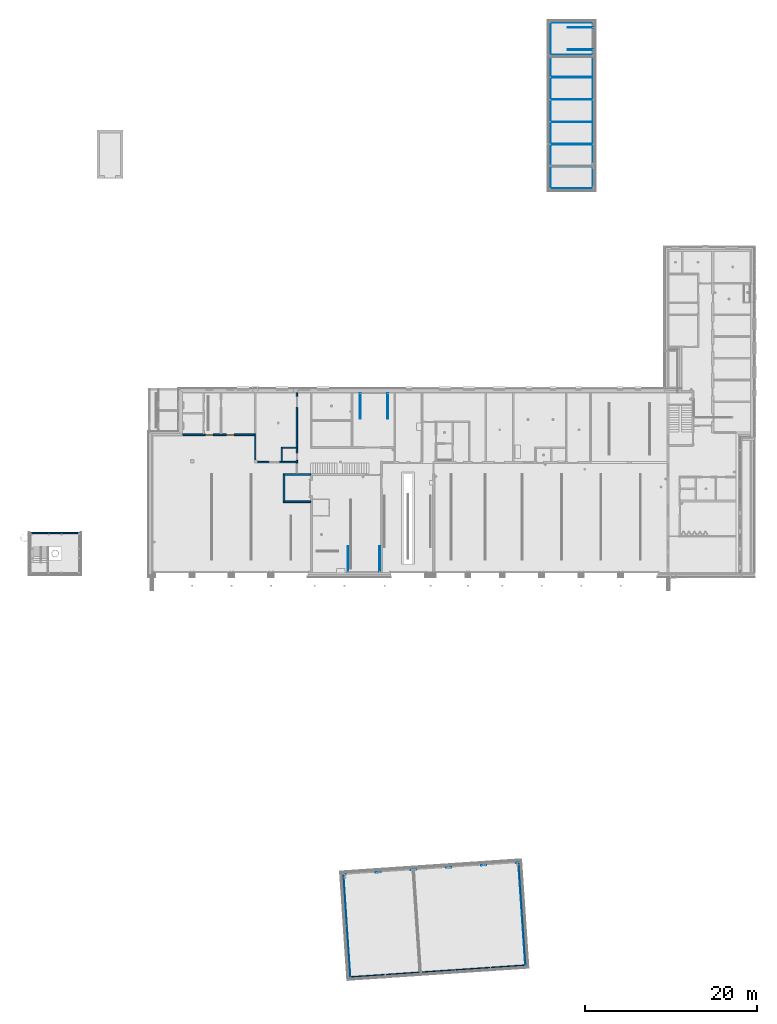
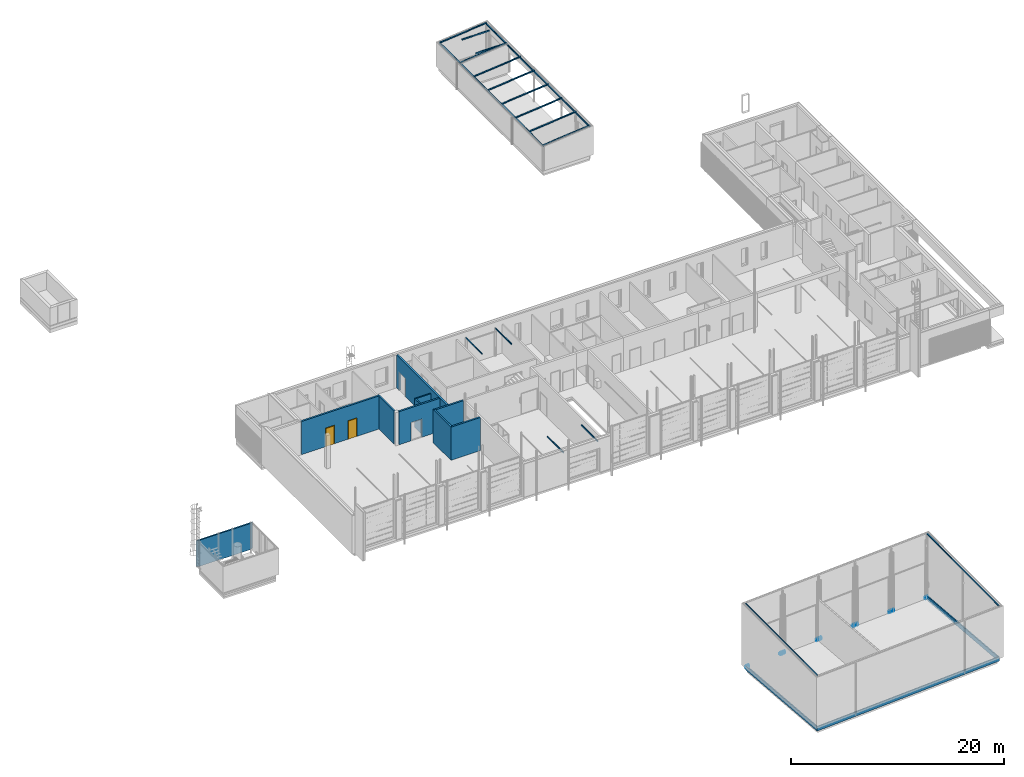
# One storey, part 8 of 112: 18 beams, 14 walls, 2 doors, 11 openings.
"""IFC2X3 building model written with IfcOpenShell, lengths in millimetres."""

from ifc_helpers import new_model, entity, si_unit, converted_unit, derived_unit, money_unit, direction, frame, frame_2d, origin_with_axes, origin_2d_with_axis, place, context, subcontext, project, spatial, polyline, rectangle, outline, extrude, clip, halfspace, faceted_brep, source, transform, mapped, material, layer, layer_set, layer_usage, type_object, element, fill, save


model = new_model("IFC2X3")

# Units and contexts
model_context = context("Model", 3, precision=0.01, world=origin_with_axes(), true_north=direction((0.0, 1.0)))
body_context = subcontext(model_context, "Body", "Model", "MODEL_VIEW")
ifc_project = project(units=[si_unit("LENGTHUNIT", "METRE", prefix="MILLI"), si_unit("AREAUNIT", "SQUARE_METRE"), si_unit("VOLUMEUNIT", "CUBIC_METRE"), converted_unit("PLANEANGLEUNIT", "DEGREE", entity("IfcPlaneAngleMeasure", 0.0174532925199), si_unit("PLANEANGLEUNIT", "RADIAN"), dimensions=[0, 0, 0, 0, 0, 0, 0]), si_unit("SOLIDANGLEUNIT", "STERADIAN"), money_unit("EUR"), converted_unit("TIMEUNIT", "Year", entity("IfcTimeMeasure", 31556926.0), si_unit("TIMEUNIT", "SECOND"), dimensions=[0, 0, 1, 0, 0, 0, 0]), si_unit("MASSUNIT", "GRAM", prefix="KILO"), si_unit("THERMODYNAMICTEMPERATUREUNIT", "DEGREE_CELSIUS"), si_unit("LUMINOUSINTENSITYUNIT", "LUMEN"), si_unit("ENERGYUNIT", "JOULE", prefix="MEGA"), derived_unit("THERMALCONDUCTANCEUNIT", [(si_unit("POWERUNIT", "WATT"), 1), (si_unit("LENGTHUNIT", "METRE"), -1), (si_unit("THERMODYNAMICTEMPERATUREUNIT", "KELVIN"), -1)]), derived_unit("SPECIFICHEATCAPACITYUNIT", [(si_unit("ENERGYUNIT", "JOULE"), 1), (si_unit("MASSUNIT", "GRAM", prefix="KILO"), -1), (si_unit("THERMODYNAMICTEMPERATUREUNIT", "KELVIN"), -1)]), derived_unit("MASSDENSITYUNIT", [(si_unit("MASSUNIT", "GRAM", prefix="KILO"), 1), (si_unit("VOLUMEUNIT", "CUBIC_METRE"), -1)])], contexts=[model_context])

# Site, building, storey
site_placement = place(None, origin_with_axes())
site = spatial("IfcSite", under=ifc_project, at=site_placement, Name="Politse- ja Piirivalveameti ning Päästeameti ühishoone", CompositionType="ELEMENT")
building_placement = place(site_placement, origin_with_axes())
building = spatial("IfcBuilding", under=site, at=building_placement, Name="Politse- ja Piirivalveameti ning Päästeameti ühishoone", CompositionType="ELEMENT")
storey_placement = place(building_placement, origin_with_axes())
storey = spatial("IfcBuildingStorey", under=building, at=storey_placement, Name="Esimene korrus", CompositionType="ELEMENT", Elevation=0.0)

# Beams
ifc_material_1 = material(Name="KON-00_GENEERILINE - KONSTRUKTSIOON")
beam_type_1 = type_object("IfcBeamType", Name="KON-00_GENEERILINE - KONSTRUKTSIOON 90 x 90", PredefinedType="BEAM")
for number, where, z_axis, x_axis in (
    (1, (23025.375444, -47156.3941584, 6104.54438722), (0.0, 0.0, 1.0), (0.997742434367, 0.0671567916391, 0.0)),
    (2, (43479.0953485, -45779.6799298, 6104.54438722), (0.0, 0.0, 1.0), (0.997742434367, 0.0671567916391, 0.0)),
):
    element("IfcBeam", number, at=place(storey_placement, frame(where, z_axis=z_axis, x_axis=x_axis)), inside=storey, type_object=beam_type_1, material=ifc_material_1, Name="TALA", ObjectType="BEAM", context=body_context, shape_type="Clipping", body=[
        clip(clip(extrude(rectangle(XDim=90.0, YDim=90.0, at=frame_2d((45.0, 0.0), x_axis=(1.0, 0.0))), frame((0.0, -12.6413403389, -1.26177350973), z_axis=(0.0, 0.995055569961, 0.0993197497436), x_axis=(0.0, -0.0993197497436, 0.995055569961)), (0.0, 0.0, 1.0), 12180.5083521), halfspace(frame((0.0, 0.0, 0.0), z_axis=(0.0, 1.0, 0.0), x_axis=(0.0, 0.0, 1.0)), True)), halfspace(frame((0.0, 12095.0, 0.0), z_axis=(0.0, -1.0, 0.0), x_axis=(0.0, 0.0, -1.0)), True)),
    ])
for number, where, z_axis, x_axis in (
    (3, (46291.8237405, 57749.8510263, 3014.01590613), (0.0, 0.0, 1.0), (0.0, -1.0, 0.0)),
    (4, (46291.8237405, 60349.8510263, 3014.01590613), (0.0, 0.0, 1.0), (0.0, -1.0, 0.0)),
    (5, (46291.8237405, 64149.8510263, 3014.01590613), (0.0, 0.0, 1.0), (0.0, -1.0, 0.0)),
    (6, (46291.8237405, 55149.8510263, 3014.01590613), (0.0, 0.0, 1.0), (0.0, -1.0, 0.0)),
    (7, (46291.8237405, 52549.8510263, 3014.01590613), (0.0, 0.0, 1.0), (0.0, -1.0, 0.0)),
    (8, (46291.8237405, 49949.8510263, 3014.01590613), (0.0, 0.0, 1.0), (0.0, -1.0, 0.0)),
    (9, (46291.8237405, 47349.8510263, 3014.01590613), (0.0, 0.0, 1.0), (0.0, -1.0, 0.0)),
    (10, (46291.8237405, 44749.8510263, 3014.01590613), (0.0, 0.0, 1.0), (0.0, -1.0, 0.0)),
):
    element("IfcBeam", number, at=place(storey_placement, frame(where, z_axis=z_axis, x_axis=x_axis)), inside=storey, type_object=beam_type_1, material=ifc_material_1, Name="TALA", ObjectType="BEAM", context=body_context, shape_type="Clipping", body=[
        clip(clip(extrude(rectangle(XDim=90.0, YDim=90.0, at=frame_2d((45.0, 0.0), x_axis=(1.0, 0.0))), frame((0.0, -12.6413403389, -1.26177350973), z_axis=(0.0, 0.995055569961, 0.0993197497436), x_axis=(0.0, -0.0993197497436, 0.995055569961)), (0.0, 0.0, 1.0), 5150.75020471), halfspace(frame((0.0, 0.0, 0.0), z_axis=(0.0, 1.0, 0.0), x_axis=(0.0, 0.0, 1.0)), True)), halfspace(frame((0.0, 5100.0, 0.0), z_axis=(0.0, -1.0, 0.0), x_axis=(0.0, 0.0, -1.0)), True)),
    ])
for number, where, z_axis, x_axis in (
    (11, (51341.8237405, 44704.8510263, 3432.56451409), (0.0, 0.0, 1.0), (1.0, 0.0, 0.0)),
    (12, (46341.8237405, 44704.8510263, 2933.49816673), (0.0, 0.0, 1.0), (1.0, 0.0, 0.0)),
):
    element("IfcBeam", number, at=place(storey_placement, frame(where, z_axis=z_axis, x_axis=x_axis)), inside=storey, type_object=beam_type_1, material=ifc_material_1, Name="TALA", ObjectType="BEAM", context=body_context, shape_type="SweptSolid", body=[
        extrude(rectangle(XDim=90.0, YDim=90.0, at=frame_2d((45.0, 0.0), x_axis=(1.0, 0.0))), frame((0.0, 0.0, 0.0), z_axis=(0.0, 1.0, 0.0), x_axis=(0.0, 0.0, 1.0)), (0.0, 0.0, 1.0), 19490.1644299),
    ])
beam_type_2 = type_object("IfcBeamType", Name="KON-00_GENEERILINE - KONSTRUKTSIOON 80 x 100", PredefinedType="BEAM")
for number, where, z_axis, x_axis in (
    (13, (22759.721466, 96.5881643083, 3115.0), (0.0, 0.0, 1.0), (1.0, 0.0, 0.0)),
    (14, (26459.9276962, 96.5881643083, 3115.0), (0.0, 0.0, 1.0), (1.0, 0.0, 0.0)),
    (15, (24194.6772624, 20927.0438187, 3115.0), (0.0, 0.0, 1.0), (-1.0, 0.0, 0.0)),
    (16, (27394.6772624, 20927.0438187, 3115.0), (0.0, 0.0, 1.0), (-1.0, 0.0, 0.0)),
    (17, (51375.9750079, 60956.213859, 3000.0), (0.0, 0.0, 1.0), (0.0, 1.0, 0.0)),
    (18, (51375.9750079, 63559.6880475, 3000.0), (0.0, 0.0, 1.0), (0.0, 1.0, 0.0)),
):
    element("IfcBeam", number, at=place(storey_placement, frame(where, z_axis=z_axis, x_axis=x_axis)), inside=storey, type_object=beam_type_2, material=ifc_material_1, Name="tõstukse siin", ObjectType="BEAM", context=body_context, shape_type="SweptSolid", body=[
        extrude(rectangle(XDim=100.0, YDim=80.0, at=frame_2d((50.0, 0.0), x_axis=(1.0, 0.0))), frame((0.0, 0.0, 0.0), z_axis=(0.0, 1.0, 0.0), x_axis=(0.0, 0.0, 1.0)), (0.0, 0.0, 1.0), 3000.0),
    ])

# Wall, openings, doors
ifc_material_2 = material(Name="KON-05_Betoon Plokk - Konstuktsioon")
ifc_layer_1 = layer(ifc_material_2, 190.0, ventilated="UNKNOWN")
ifc_layer_set_1 = layer_set([ifc_layer_1], Name="SS-03_Sisesein 190")
ifc_layer_usage_1 = layer_usage(ifc_layer_set_1, "AXIS2", "NEGATIVE", 190.0)
wall_type_1 = type_object("IfcWallType", Name="SS-03_Sisesein 190 190", PredefinedType="NOTDEFINED")
wall_1_placement = place(storey_placement, frame((3500.00534722, 16000.0244444, 0.0), z_axis=(0.0, 0.0, 1.0), x_axis=(1.0, 0.0, 0.0)))
wall_1 = element("IfcWallStandardCase", 19, at=wall_1_placement, inside=storey, type_object=wall_type_1, material=ifc_layer_usage_1, Name="SS-03", context=body_context, shape_type="SweptSolid", body=[
    extrude(outline(polyline([(0.0, 0.0), (8400.19283361, 0.0), (8400.19283361, 190.0), (0.0, 190.0), (0.0, 0.0)])), origin_with_axes(), (0.0, 0.0, 1.0), 3800.0),
])
opening_1_placement = place(wall_1_placement, frame((3090.00366667, 0.0, 0.0), z_axis=(0.0, 0.0, 1.0), x_axis=(1.0, 0.0, 0.0)))
opening_1 = element("IfcOpeningElement", 20, at=opening_1_placement, cuts=wall_1, Name="TU-01-10", context=body_context, shape_type="SweptSolid", body=[
    extrude(rectangle(XDim=900.0, YDim=2100.0, at=origin_2d_with_axis()), frame((0.0, 190.0, 1050.0), z_axis=(0.0, 1.0, 0.0), x_axis=(1.0, 0.0, 0.0)), (0.0, 0.0, -1.0), 570.0),
    extrude(rectangle(XDim=974.0, YDim=2137.0, at=origin_2d_with_axis()), frame((0.0, 190.0, 1068.5), z_axis=(0.0, 1.0, 0.0), x_axis=(1.0, 0.0, 0.0)), (0.0, 0.0, 1.0), 190.0),
    extrude(rectangle(XDim=974.0, YDim=2137.0, at=origin_2d_with_axis()), frame((0.0, 0.0, 1068.5), z_axis=(0.0, -1.0, 0.0), x_axis=(1.0, 0.0, 0.0)), (0.0, 0.0, 1.0), 190.0),
])
opening_2_placement = place(wall_1_placement, frame((5550.45566228, 0.0, 0.0), z_axis=(0.0, 0.0, 1.0), x_axis=(1.0, 0.0, 0.0)))
opening_2 = element("IfcOpeningElement", 21, at=opening_2_placement, cuts=wall_1, Name="TU-01-10", context=body_context, shape_type="SweptSolid", body=[
    extrude(rectangle(XDim=900.0, YDim=2100.0, at=origin_2d_with_axis()), frame((0.0, 190.0, 1050.0), z_axis=(0.0, 1.0, 0.0), x_axis=(1.0, 0.0, 0.0)), (0.0, 0.0, -1.0), 570.0),
    extrude(rectangle(XDim=974.0, YDim=2137.0, at=origin_2d_with_axis()), frame((0.0, 190.0, 1068.5), z_axis=(0.0, 1.0, 0.0), x_axis=(1.0, 0.0, 0.0)), (0.0, 0.0, 1.0), 190.0),
    extrude(rectangle(XDim=974.0, YDim=2137.0, at=origin_2d_with_axis()), frame((0.0, 0.0, 1068.5), z_axis=(0.0, -1.0, 0.0), x_axis=(1.0, 0.0, 0.0)), (0.0, 0.0, 1.0), 190.0),
])
door_style = type_object("IfcDoorStyle", Name="Door 23", ConstructionType="NOTDEFINED", OperationType="SINGLE_SWING_LEFT", ParameterTakesPrecedence=False, Sizeable=False)
shared_shape = source(origin_with_axes(), body_context, "Body", "Brep", [
    faceted_brep([(-422.0, -40.0, 0.0), (-410.0, -40.0, 0.0), (-410.0, -40.0, 12.0), (-422.0, -40.0, 12.0), (422.0, -40.0, 0.0), (410.0, -40.0, 0.0), (410.0, -115.0, 0.0), (-410.0, -115.0, 0.0), (-410.0, -115.0, 12.0), (410.0, -115.0, 12.0), (410.0, -40.0, 12.0), (422.0, -40.0, 12.0)], [[[0, 1, 2, 3]], [[0, 4, 5, 6, 7, 1]], [[1, 7, 8, 2]], [[3, 2, 8, 9, 10, 11]], [[4, 0, 3, 11]], [[5, 4, 11, 10]], [[6, 5, 10, 9]], [[7, 6, 9, 8]]]),
    faceted_brep([(450.0, -115.0, 0.0), (450.0, -190.0, 0.0), (425.0, -190.0, 0.0), (425.0, -115.0, 0.0), (450.0, -115.0, 2100.0), (450.0, -190.0, 2100.0), (425.0, -190.0, 2075.0), (425.0, -115.0, 2075.0)], [[[0, 1, 2, 3]], [[4, 5, 1, 0]], [[1, 5, 6, 2]], [[3, 2, 6, 7]], [[0, 3, 7, 4]], [[7, 6, 5, 4]]]),
    faceted_brep([(-450.0, -115.0, 2100.0), (-450.0, -190.0, 2100.0), (-425.0, -190.0, 2075.0), (-425.0, -115.0, 2075.0), (-450.0, -115.0, 0.0), (-450.0, -190.0, 0.0), (-425.0, -190.0, 0.0), (-425.0, -115.0, 0.0)], [[[0, 1, 2, 3]], [[4, 5, 1, 0]], [[1, 5, 6, 2]], [[3, 2, 6, 7]], [[0, 3, 7, 4]], [[7, 6, 5, 4]]]),
    faceted_brep([(425.0, -115.0, 2075.0), (425.0, -190.0, 2075.0), (-425.0, -190.0, 2075.0), (-425.0, -115.0, 2075.0), (450.0, -115.0, 2100.0), (450.0, -190.0, 2100.0), (-450.0, -190.0, 2100.0), (-450.0, -115.0, 2100.0)], [[[0, 1, 2, 3]], [[4, 5, 1, 0]], [[1, 5, 6, 2]], [[3, 2, 6, 7]], [[0, 3, 7, 4]], [[7, 6, 5, 4]]]),
    faceted_brep([(487.0, -209.0, 0.0), (437.0, -209.0, 0.0), (437.0, -190.0, 0.0), (487.0, -190.0, 0.0), (487.0, -209.0, 2137.0), (437.0, -209.0, 2087.0), (437.0, -190.0, 2087.0), (487.0, -190.0, 2137.0)], [[[0, 1, 2, 3]], [[0, 4, 5, 1]], [[1, 5, 6, 2]], [[3, 2, 6, 7]], [[4, 0, 3, 7]], [[5, 4, 7, 6]]]),
    faceted_brep([(-487.0, -209.0, 2137.0), (-437.0, -209.0, 2087.0), (-437.0, -190.0, 2087.0), (-487.0, -190.0, 2137.0), (-487.0, -209.0, 0.0), (-437.0, -209.0, 0.0), (-437.0, -190.0, 0.0), (-487.0, -190.0, 0.0)], [[[0, 1, 2, 3]], [[0, 4, 5, 1]], [[1, 5, 6, 2]], [[3, 2, 6, 7]], [[4, 0, 3, 7]], [[5, 4, 7, 6]]]),
    faceted_brep([(487.0, -209.0, 2137.0), (437.0, -209.0, 2087.0), (437.0, -190.0, 2087.0), (487.0, -190.0, 2137.0), (-487.0, -209.0, 2137.0), (-437.0, -209.0, 2087.0), (-437.0, -190.0, 2087.0), (-487.0, -190.0, 2137.0)], [[[0, 1, 2, 3]], [[0, 4, 5, 1]], [[1, 5, 6, 2]], [[3, 2, 6, 7]], [[4, 0, 3, 7]], [[5, 4, 7, 6]]]),
    faceted_brep([(487.0, 19.0, 0.0), (487.0, 0.0, 0.0), (437.0, 0.0, 0.0), (437.0, 19.0, 0.0), (487.0, 19.0, 2137.0), (487.0, 0.0, 2137.0), (437.0, 0.0, 2087.0), (437.0, 19.0, 2087.0)], [[[0, 1, 2, 3]], [[4, 5, 1, 0]], [[1, 5, 6, 2]], [[3, 2, 6, 7]], [[0, 3, 7, 4]], [[7, 6, 5, 4]]]),
    faceted_brep([(-487.0, 19.0, 2137.0), (-487.0, 0.0, 2137.0), (-437.0, 0.0, 2087.0), (-437.0, 19.0, 2087.0), (-487.0, 19.0, 0.0), (-487.0, 0.0, 0.0), (-437.0, 0.0, 0.0), (-437.0, 19.0, 0.0)], [[[0, 1, 2, 3]], [[4, 5, 1, 0]], [[1, 5, 6, 2]], [[3, 2, 6, 7]], [[0, 3, 7, 4]], [[7, 6, 5, 4]]]),
    faceted_brep([(487.0, 19.0, 2137.0), (487.0, 0.0, 2137.0), (437.0, 0.0, 2087.0), (437.0, 19.0, 2087.0), (-487.0, 19.0, 2137.0), (-487.0, 0.0, 2137.0), (-437.0, 0.0, 2087.0), (-437.0, 19.0, 2087.0)], [[[0, 1, 2, 3]], [[4, 5, 1, 0]], [[1, 5, 6, 2]], [[3, 2, 6, 7]], [[0, 3, 7, 4]], [[7, 6, 5, 4]]]),
    faceted_brep([(410.0, -40.0, 0.0), (410.0, -115.0, 0.0), (410.0, -115.0, 2060.0), (410.0, -40.0, 2060.0), (422.0, -40.0, 0.0), (422.0, 0.0, 0.0), (450.0, 0.0, 0.0), (450.0, -115.0, 0.0), (450.0, -115.0, 2060.0), (422.0, -40.0, 2060.0), (450.0, 0.0, 2060.0), (422.0, 0.0, 2060.0)], [[[0, 1, 2, 3]], [[4, 5, 6, 7, 1, 0]], [[1, 7, 8, 2]], [[9, 3, 2, 8, 10, 11]], [[9, 4, 0, 3]], [[11, 5, 4, 9]], [[11, 10, 6, 5]], [[6, 10, 8, 7]]]),
    faceted_brep([(-422.0, -40.0, 2060.0), (-422.0, 0.0, 2060.0), (-450.0, 0.0, 2060.0), (-450.0, -115.0, 2060.0), (-410.0, -115.0, 2060.0), (-410.0, -40.0, 2060.0), (-422.0, -40.0, 0.0), (-422.0, 0.0, 0.0), (-450.0, 0.0, 0.0), (-450.0, -115.0, 0.0), (-410.0, -115.0, 0.0), (-410.0, -40.0, 0.0)], [[[0, 1, 2, 3, 4, 5]], [[0, 6, 7, 1]], [[7, 8, 2, 1]], [[2, 8, 9, 3]], [[3, 9, 10, 4]], [[5, 4, 10, 11]], [[5, 11, 6, 0]], [[6, 11, 10, 9, 8, 7]]]),
    faceted_brep([(422.0, 0.0, 2072.0), (-422.0, 0.0, 2072.0), (-422.0, 0.0, 2060.0), (-450.0, 0.0, 2060.0), (-450.0, 0.0, 2100.0), (450.0, 0.0, 2100.0), (450.0, 0.0, 2060.0), (422.0, 0.0, 2060.0), (422.0, -40.0, 2072.0), (-422.0, -40.0, 2072.0), (-422.0, -40.0, 2060.0), (-410.0, -40.0, 2060.0), (-410.0, -115.0, 2060.0), (-450.0, -115.0, 2060.0), (-450.0, -115.0, 2100.0), (450.0, -115.0, 2100.0), (450.0, -115.0, 2060.0), (422.0, -40.0, 2060.0), (410.0, -115.0, 2060.0), (410.0, -40.0, 2060.0)], [[[0, 1, 2, 3, 4, 5, 6, 7]], [[0, 8, 9, 1]], [[1, 9, 10, 2]], [[10, 11, 12, 13, 3, 2]], [[4, 3, 13, 14]], [[5, 4, 14, 15]], [[6, 5, 15, 16]], [[17, 7, 6, 16, 18, 19]], [[7, 17, 8, 0]], [[10, 9, 8, 17, 19, 11]], [[19, 18, 12, 11]], [[12, 18, 16, 15, 14, 13]]]),
    faceted_brep([(-422.0, 0.0, 0.0), (422.0, 0.0, 0.0), (422.0, -40.0, 0.0), (-422.0, -40.0, 0.0), (-422.0, 0.0, 2072.0), (422.0, 0.0, 2072.0), (422.0, -40.0, 2072.0), (-422.0, -40.0, 2072.0)], [[[0, 1, 2, 3]], [[0, 4, 5, 1]], [[1, 5, 6, 2]], [[3, 2, 6, 7]], [[4, 0, 3, 7]], [[5, 4, 7, 6]]]),
])
door_1_placement = place(opening_1_placement, frame((450.0, 0.0, 0.0), z_axis=(0.0, 0.0, 1.0), x_axis=(-1.0, 0.0, 0.0)))
door_1 = element("IfcDoor", 22, at=door_1_placement, inside=storey, type_object=door_style, Name="TU-01-10", ObjectType="DOOR", OverallHeight=2100.0, OverallWidth=900.0, context=body_context, shape_type="MappedRepresentation", body=[
    mapped(shared_shape, transform((450.0, 0.0, 0.0))),
])
fill(opening_1, door_1)
door_2_placement = place(opening_2_placement, frame((450.0, 0.0, 0.0), z_axis=(0.0, 0.0, 1.0), x_axis=(-1.0, 0.0, 0.0)))
door_2 = element("IfcDoor", 23, at=door_2_placement, inside=storey, type_object=door_style, Name="TU-01-10", ObjectType="DOOR", OverallHeight=2100.0, OverallWidth=900.0, context=body_context, shape_type="MappedRepresentation", body=[
    mapped(shared_shape, transform((450.0, 0.0, 0.0))),
])
fill(opening_2, door_2)

# Wall, opening
ifc_layer_usage_2 = layer_usage(ifc_layer_set_1, "AXIS2", "POSITIVE", -190.0)
wall_2_placement = place(storey_placement, frame((12250.1960484, 13000.0198611, 0.0), z_axis=(0.0, 0.0, 1.0), x_axis=(1.0, 0.0, 0.0)))
wall_2 = element("IfcWallStandardCase", 24, at=wall_2_placement, inside=storey, type_object=wall_type_1, material=ifc_layer_usage_2, Name="SS-03", context=body_context, shape_type="SweptSolid", body=[
    extrude(outline(polyline([(0.0, -190.0), (4459.88977117, -190.0), (4454.88977117, 0.0), (-5.0, 0.0), (0.0, -190.0)])), origin_with_axes(), (0.0, 0.0, 1.0), 3800.0),
])
opening_3_placement = place(wall_2_placement, frame((1919.40604494, 0.0, 0.0), z_axis=(0.0, 0.0, 1.0), x_axis=(1.0, 0.0, 0.0)))
element("IfcOpeningElement", 25, at=opening_3_placement, cuts=wall_2, Name="TU-01-2", context=body_context, shape_type="SweptSolid", body=[
    extrude(rectangle(XDim=1200.0, YDim=2100.0, at=origin_2d_with_axis()), frame((0.0, -190.0, 1050.0), z_axis=(0.0, -1.0, 0.0), x_axis=(-1.0, 0.0, 0.0)), (0.0, 0.0, -1.0), 570.0),
    extrude(rectangle(XDim=1274.0, YDim=2137.0, at=origin_2d_with_axis()), frame((0.0, -190.0, 1068.5), z_axis=(0.0, -1.0, 0.0), x_axis=(-1.0, 0.0, 0.0)), (0.0, 0.0, 1.0), 190.0),
    extrude(rectangle(XDim=1274.0, YDim=2137.0, at=origin_2d_with_axis()), frame((0.0, 0.0, 1068.5), z_axis=(0.0, 1.0, 0.0), x_axis=(-1.0, 0.0, 0.0)), (0.0, 0.0, 1.0), 190.0),
])

# Wall, openings
ifc_layer_usage_3 = layer_usage(ifc_layer_set_1, "AXIS2", "POSITIVE", -190.0)
wall_3_placement = place(storey_placement, frame((16900.0858195, 20999.9520832, 0.0), z_axis=(0.0, 0.0, 1.0), x_axis=(0.0, -1.0, 0.0)))
wall_3 = element("IfcWallStandardCase", 26, at=wall_3_placement, inside=storey, type_object=wall_type_1, material=ifc_layer_usage_3, Name="SS-03", context=body_context, shape_type="SweptSolid", body=[
    extrude(outline(polyline([(0.0, -190.0), (9439.9322221, -190.0), (9439.9322221, 0.0), (0.0, 0.0), (0.0, -190.0)])), origin_with_axes(), (0.0, 0.0, 1.0), 3800.0),
])
opening_4_placement = place(wall_3_placement, frame((1079.90754028, 0.0, 0.0), z_axis=(0.0, 0.0, 1.0), x_axis=(1.0, 0.0, 0.0)))
element("IfcOpeningElement", 27, at=opening_4_placement, cuts=wall_3, Name="TU-01-2", context=body_context, shape_type="SweptSolid", body=[
    extrude(rectangle(XDim=1200.0, YDim=2100.0, at=origin_2d_with_axis()), frame((0.0, -190.0, 1050.0), z_axis=(0.0, -1.0, 0.0), x_axis=(1.0, 0.0, 0.0)), (0.0, 0.0, -1.0), 570.0),
    extrude(rectangle(XDim=1274.0, YDim=2137.0, at=origin_2d_with_axis()), frame((0.0, -190.0, 1068.5), z_axis=(0.0, -1.0, 0.0), x_axis=(1.0, 0.0, 0.0)), (0.0, 0.0, 1.0), 190.0),
    extrude(rectangle(XDim=1274.0, YDim=2137.0, at=origin_2d_with_axis()), frame((0.0, 0.0, 1068.5), z_axis=(0.0, 1.0, 0.0), x_axis=(1.0, 0.0, 0.0)), (0.0, 0.0, 1.0), 190.0),
])
opening_5_placement = place(wall_3_placement, frame((7439.98395163, 0.0, 0.0), z_axis=(0.0, 0.0, 1.0), x_axis=(1.0, 0.0, 0.0)))
element("IfcOpeningElement", 28, at=opening_5_placement, cuts=wall_3, Name="SU-01-6", context=body_context, shape_type="SweptSolid", body=[
    extrude(rectangle(XDim=800.0, YDim=2100.0, at=origin_2d_with_axis()), frame((0.0, -190.0, 1050.0), z_axis=(0.0, 1.0, 0.0), x_axis=(1.0, 0.0, 0.0)), (0.0, 0.0, 1.0), 570.0),
    extrude(rectangle(XDim=874.0, YDim=2137.0, at=origin_2d_with_axis()), frame((0.0, -190.0, 1068.5), z_axis=(0.0, 1.0, 0.0), x_axis=(1.0, 0.0, 0.0)), (0.0, 0.0, -1.0), 190.0),
    extrude(rectangle(XDim=874.0, YDim=2137.0, at=origin_2d_with_axis()), frame((0.0, 0.0, 1068.5), z_axis=(0.0, -1.0, 0.0), x_axis=(1.0, 0.0, 0.0)), (0.0, 0.0, -1.0), 190.0),
])
opening_6_placement = place(wall_3_placement, frame((8839.9322221, 0.0, 0.0), z_axis=(0.0, 0.0, 1.0), x_axis=(1.0, 0.0, 0.0)))
element("IfcOpeningElement", 29, at=opening_6_placement, cuts=wall_3, Name="TU-01-1", context=body_context, shape_type="SweptSolid", body=[
    extrude(rectangle(XDim=1200.0, YDim=2100.0, at=origin_2d_with_axis()), frame((0.0, -190.0, 1050.0), z_axis=(0.0, 1.0, 0.0), x_axis=(-1.0, 0.0, 0.0)), (0.0, 0.0, 1.0), 570.0),
    extrude(rectangle(XDim=1274.0, YDim=2137.0, at=origin_2d_with_axis()), frame((0.0, -190.0, 1068.5), z_axis=(0.0, 1.0, 0.0), x_axis=(-1.0, 0.0, 0.0)), (0.0, 0.0, -1.0), 190.0),
    extrude(rectangle(XDim=1274.0, YDim=2137.0, at=origin_2d_with_axis()), frame((0.0, 0.0, 1068.5), z_axis=(0.0, -1.0, 0.0), x_axis=(-1.0, 0.0, 0.0)), (0.0, 0.0, -1.0), 190.0),
])

# Walls
ifc_layer_usage_4 = layer_usage(ifc_layer_set_1, "AXIS2", "POSITIVE", -190.0)
wall_4_placement = place(storey_placement, frame((15210.5476386, 11560.0198611, 0.0), z_axis=(0.0, 0.0, 1.0), x_axis=(1.0, 0.0, 0.0)))
element("IfcWallStandardCase", 30, at=wall_4_placement, inside=storey, type_object=wall_type_1, material=ifc_layer_usage_4, Name="SS-02", context=body_context, shape_type="SweptSolid", body=[
    extrude(outline(polyline([(190.0, -190.0), (3189.54047256, -190.0), (3189.54047256, 0.0), (0.0, 0.0), (190.0, -190.0)])), origin_with_axes(), (0.0, 0.0, 1.0), 3800.0),
])
ifc_layer_usage_5 = layer_usage(ifc_layer_set_1, "AXIS2", "NEGATIVE", 190.0)
wall_5_placement = place(storey_placement, frame((15210.5476386, 8180.01986111, 0.0), z_axis=(0.0, 0.0, 1.0), x_axis=(1.0, 0.0, 0.0)))
element("IfcWallStandardCase", 31, at=wall_5_placement, inside=storey, type_object=wall_type_1, material=ifc_layer_usage_5, Name="SS-02", context=body_context, shape_type="SweptSolid", body=[
    extrude(outline(polyline([(0.0, 0.0), (3189.54047256, 0.0), (3189.54047256, 190.0), (190.0, 190.0), (0.0, 0.0)])), origin_with_axes(), (0.0, 0.0, 1.0), 3800.0),
])
ifc_layer_usage_6 = layer_usage(ifc_layer_set_1, "AXIS2", "NEGATIVE", 190.0)
wall_6_placement = place(storey_placement, frame((15210.5476386, 11560.0198611, 0.0), z_axis=(0.0, 0.0, 1.0), x_axis=(0.0, -1.0, 0.0)))
element("IfcWallStandardCase", 32, at=wall_6_placement, inside=storey, type_object=wall_type_1, material=ifc_layer_usage_6, Name="SS-03", context=body_context, shape_type="SweptSolid", body=[
    extrude(outline(polyline([(0.0, 0.0), (3380.0, 0.0), (3190.0, 190.0), (190.0, 190.0), (0.0, 0.0)])), origin_with_axes(), (0.0, 0.0, 1.0), 3800.0),
])
ifc_layer_2 = layer(ifc_material_2, 140.0, ventilated="UNKNOWN")
ifc_layer_set_2 = layer_set([ifc_layer_2], Name="SS-02_Sisesein 140")
ifc_layer_usage_7 = layer_usage(ifc_layer_set_2, "AXIS2", "NEGATIVE", 0.0)
wall_type_2 = type_object("IfcWallType", Name="SS-02_Sisesein 140 140", PredefinedType="NOTDEFINED")
wall_7_placement = place(storey_placement, frame((15110.0943411, 14500.0421528, 0.0), z_axis=(0.0, 0.0, 1.0), x_axis=(0.0, -1.0, 0.0)))
element("IfcWallStandardCase", 33, at=wall_7_placement, inside=storey, type_object=wall_type_2, material=ifc_layer_usage_7, Name="SS-02", context=body_context, shape_type="SweptSolid", body=[
    extrude(outline(polyline([(-140.0, -140.0), (1500.0222917, -140.0), (1500.0222917, 0.0), (0.0, 0.0), (-140.0, -140.0)])), origin_with_axes(), (0.0, 0.0, 1.0), 3280.0),
])
ifc_layer_usage_8 = layer_usage(ifc_layer_set_2, "AXIS2", "NEGATIVE", 0.0)
wall_8_placement = place(storey_placement, frame((16900.0858195, 14500.0421528, 0.0), z_axis=(0.0, 0.0, 1.0), x_axis=(-1.0, 0.0, 0.0)))
element("IfcWallStandardCase", 34, at=wall_8_placement, inside=storey, type_object=wall_type_2, material=ifc_layer_usage_8, Name="SS-02", context=body_context, shape_type="SweptSolid", body=[
    extrude(outline(polyline([(190.0, -140.0), (1929.99147847, -140.0), (1789.99147847, 0.0), (190.0, 0.0), (190.0, -140.0)])), origin_with_axes(), (0.0, 0.0, 1.0), 3280.0),
])
ifc_layer_usage_9 = layer_usage(ifc_layer_set_2, "AXIS2", "NEGATIVE", 140.0)
wall_9_placement = place(storey_placement, frame((11900.1981808, 16220.0244444, 0.0), z_axis=(0.0, 0.0, 1.0), x_axis=(0.0, -1.0, 0.0)))
element("IfcWallStandardCase", 35, at=wall_9_placement, inside=storey, type_object=wall_type_2, material=ifc_layer_usage_9, Name="SS-02", context=body_context, shape_type="SweptSolid", body=[
    extrude(outline(polyline([(0.0, 0.0), (3060.01055854, 0.0), (3060.01055854, 140.0), (0.0, 140.0), (0.0, 0.0)])), origin_with_axes(), (0.0, 0.0, 1.0), 3800.0),
])
ifc_material_3 = material(Name="Betoon")
ifc_layer_3 = layer(ifc_material_3, 150.0, ventilated="UNKNOWN")
ifc_layer_set_3 = layer_set([ifc_layer_3], Name="VS-21_Välissein jarjutustorn 150mm")
ifc_layer_usage_10 = layer_usage(ifc_layer_set_3, "AXIS2", "NEGATIVE", 150.0)
wall_type_3 = type_object("IfcWallType", Name="VS-21_Välissein jarjutustorn 150mm 150", PredefinedType="NOTDEFINED")
wall_10_placement = place(storey_placement, frame((-14182.0, 4575.4616888, 299.570732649), z_axis=(0.0, 0.0, 1.0), x_axis=(1.0, 0.0, 0.0)))
element("IfcWallStandardCase", 36, at=wall_10_placement, inside=storey, type_object=wall_type_3, material=ifc_layer_usage_10, Name="VS-22", context=body_context, shape_type="SweptSolid", body=[
    extrude(outline(polyline([(0.0, 0.0), (5650.0, 0.0), (5875.0, 150.0), (-225.0, 150.0), (0.0, 0.0)])), origin_with_axes(), (0.0, 0.0, 1.0), 3000.42930665),
])
ifc_material_4 = material(Name="KON-04_Betoon - Konstuktsioon")
ifc_layer_4 = layer(ifc_material_4, 120.0, ventilated="UNKNOWN")
ifc_layer_set_4 = layer_set([ifc_layer_4], Name="VS-32_garaazi sokkel")
ifc_layer_usage_11 = layer_usage(ifc_layer_set_4, "AXIS2", "POSITIVE", -60.0)
wall_type_4 = type_object("IfcWallType", Name="VS-32_garaazi sokkel 120", PredefinedType="NOTDEFINED")
wall_11_placement = place(storey_placement, frame((22216.4718887, -35138.5865365, -195.0), z_axis=(0.0, 0.0, 1.0), x_axis=(0.0671567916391, -0.997742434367, 0.0)))
element("IfcWallStandardCase", 37, at=wall_11_placement, inside=storey, type_object=wall_type_4, material=ifc_layer_usage_11, Name="VS-42", context=body_context, shape_type="SweptSolid", body=[
    extrude(outline(polyline([(-60.0, -60.0), (12060.0, -60.0), (11940.0, 60.0), (60.0, 60.0), (-60.0, -60.0)])), origin_with_axes(), (0.0, 0.0, 1.0), 495.0),
])
ifc_layer_usage_12 = layer_usage(ifc_layer_set_4, "AXIS2", "POSITIVE", -60.0)
wall_12_placement = place(storey_placement, frame((43476.0732693, -45734.7815219, -195.0), z_axis=(0.0, 0.0, 1.0), x_axis=(-0.997742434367, -0.0671567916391, 0.0)))
element("IfcWallStandardCase", 38, at=wall_12_placement, inside=storey, type_object=wall_type_4, material=ifc_layer_usage_12, Name="VS-32", context=body_context, shape_type="SweptSolid", body=[
    extrude(outline(polyline([(59.9999763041, -60.0), (20439.9999763, -60.0), (20559.9999763, 60.0), (-60.0000236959, 60.0), (59.9999763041, -60.0)])), origin_with_axes(), (0.0, 0.0, 1.0), 495.0),
])
ifc_layer_usage_13 = layer_usage(ifc_layer_set_4, "AXIS2", "POSITIVE", -60.0)
wall_13_placement = place(storey_placement, frame((42670.1917932, -33761.8723079, -195.0), z_axis=(0.0, 0.0, 1.0), x_axis=(0.0671567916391, -0.997742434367, 0.0)))
element("IfcWallStandardCase", 39, at=wall_13_placement, inside=storey, type_object=wall_type_4, material=ifc_layer_usage_13, Name="VS-42", context=body_context, shape_type="SweptSolid", body=[
    extrude(outline(polyline([(60.0, -60.0), (11940.0, -60.0), (12060.0, 60.0), (-60.0, 60.0), (60.0, -60.0)])), origin_with_axes(), (0.0, 0.0, 1.0), 495.0),
])

# Wall, openings
ifc_layer_usage_14 = layer_usage(ifc_layer_set_4, "AXIS2", "POSITIVE", -60.0)
wall_14_placement = place(storey_placement, frame((22216.4718887, -35138.5865365, 0.0), z_axis=(0.0, 0.0, 1.0), x_axis=(0.997742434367, 0.0671567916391, 0.0)))
wall_14 = element("IfcWallStandardCase", 40, at=wall_14_placement, inside=storey, type_object=wall_type_4, material=ifc_layer_usage_14, Name="VS-42", context=body_context, shape_type="SweptSolid", body=[
    extrude(outline(polyline([(60.0, -60.0), (20440.0, -60.0), (20560.0, 60.0), (-60.0, 60.0), (60.0, -60.0)])), origin_with_axes(), (0.0, 0.0, 1.0), 300.0),
])
opening_7_placement = place(wall_14_placement, frame((6150.00001185, 0.0, 0.0), z_axis=(0.0, 0.0, 1.0), x_axis=(1.0, 0.0, 0.0)))
element("IfcOpeningElement", 41, at=opening_7_placement, cuts=wall_14, Name="TÜHI AVA", context=body_context, shape_type="SweptSolid", body=[
    extrude(rectangle(XDim=3500.0, YDim=2100.0, at=origin_2d_with_axis()), frame((0.0, -120.0, 1050.0), z_axis=(0.0, 1.0, 0.0), x_axis=(-1.0, 0.0, 0.0)), (0.0, 0.0, 1.0), 360.0),
])
opening_8_placement = place(wall_14_placement, frame((2050.00001185, 0.0, 0.0), z_axis=(0.0, 0.0, 1.0), x_axis=(1.0, 0.0, 0.0)))
element("IfcOpeningElement", 42, at=opening_8_placement, cuts=wall_14, Name="TÜHI AVA", context=body_context, shape_type="SweptSolid", body=[
    extrude(rectangle(XDim=3500.0, YDim=2100.0, at=origin_2d_with_axis()), frame((0.0, -120.0, 1050.0), z_axis=(0.0, 1.0, 0.0), x_axis=(-1.0, 0.0, 0.0)), (0.0, 0.0, 1.0), 360.0),
])
opening_9_placement = place(wall_14_placement, frame((10250.0000118, 0.0, 0.0), z_axis=(0.0, 0.0, 1.0), x_axis=(1.0, 0.0, 0.0)))
element("IfcOpeningElement", 43, at=opening_9_placement, cuts=wall_14, Name="TÜHI AVA", context=body_context, shape_type="SweptSolid", body=[
    extrude(rectangle(XDim=3500.0, YDim=2100.0, at=origin_2d_with_axis()), frame((0.0, -120.0, 1050.0), z_axis=(0.0, 1.0, 0.0), x_axis=(-1.0, 0.0, 0.0)), (0.0, 0.0, 1.0), 360.0),
])
opening_10_placement = place(wall_14_placement, frame((14350.0000118, 0.0, 0.0), z_axis=(0.0, 0.0, 1.0), x_axis=(1.0, 0.0, 0.0)))
element("IfcOpeningElement", 44, at=opening_10_placement, cuts=wall_14, Name="TÜHI AVA", context=body_context, shape_type="SweptSolid", body=[
    extrude(rectangle(XDim=3500.0, YDim=2100.0, at=origin_2d_with_axis()), frame((0.0, -120.0, 1050.0), z_axis=(0.0, 1.0, 0.0), x_axis=(-1.0, 0.0, 0.0)), (0.0, 0.0, 1.0), 360.0),
])
opening_11_placement = place(wall_14_placement, frame((18450.0000118, 0.0, 0.0), z_axis=(0.0, 0.0, 1.0), x_axis=(1.0, 0.0, 0.0)))
element("IfcOpeningElement", 45, at=opening_11_placement, cuts=wall_14, Name="TÜHI AVA", context=body_context, shape_type="SweptSolid", body=[
    extrude(rectangle(XDim=3500.0, YDim=2100.0, at=origin_2d_with_axis()), frame((0.0, -120.0, 1050.0), z_axis=(0.0, 1.0, 0.0), x_axis=(-1.0, 0.0, 0.0)), (0.0, 0.0, 1.0), 360.0),
])

save(model, "model.ifc")
